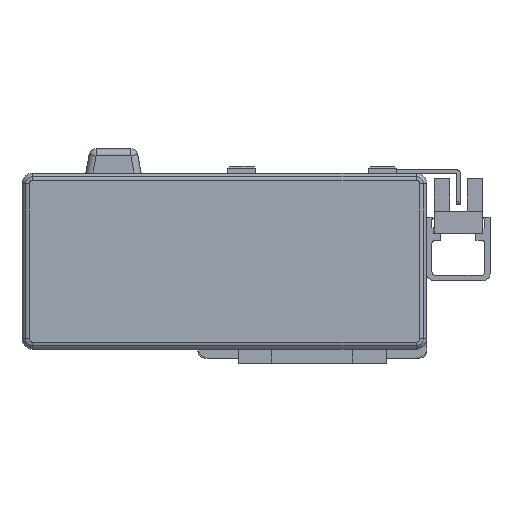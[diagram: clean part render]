
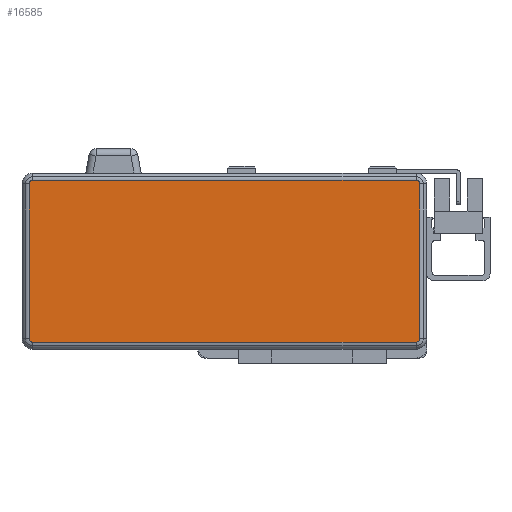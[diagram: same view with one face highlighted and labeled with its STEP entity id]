
A CAD part, left-side view. The second image highlights one B-rep face of the part: STEP entity #16585.
In plain terms, the highlighted planar face has unit normal (-1, 0, 0) as drawn and (0, 0, 1) by its records, which use the part's own axes.
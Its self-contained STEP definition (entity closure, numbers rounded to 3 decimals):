
#4 = CARTESIAN_POINT ( 'NONE',  ( -54.5, 23., 40. ) ) ;
#787 = CARTESIAN_POINT ( 'NONE',  ( -55.5, 22., 40. ) ) ;
#1592 = DIRECTION ( 'NONE',  ( -1., 0., 0. ) ) ;
#1779 = DIRECTION ( 'NONE',  ( 0., 0., 1. ) ) ;
#2350 = CARTESIAN_POINT ( 'NONE',  ( -54.5, -23., 40. ) ) ;
#3038 = EDGE_LOOP ( 'NONE', ( #16151, #17497, #17684, #18080, #18652, #18756, #19228, #19342 ) ) ;
#4002 = VERTEX_POINT ( 'NONE', #26569 ) ;
#5060 = VERTEX_POINT ( 'NONE', #16366 ) ;
#6019 = CARTESIAN_POINT ( 'NONE',  ( 55.5, 0., 40. ) ) ;
#7410 = CARTESIAN_POINT ( 'NONE',  ( 54.5, -22., 40. ) ) ;
#7452 = DIRECTION ( 'NONE',  ( 0., 0., 1. ) ) ;
#8051 = CARTESIAN_POINT ( 'NONE',  ( 0., -23., 40. ) ) ;
#8446 = VERTEX_POINT ( 'NONE', #2350 ) ;
#8719 = AXIS2_PLACEMENT_3D ( 'NONE', #23325, #23313, #23276 ) ;
#8763 = AXIS2_PLACEMENT_3D ( 'NONE', #25119, #25105, #25073 ) ;
#8792 = DIRECTION ( 'NONE',  ( -1., 0., 0. ) ) ;
#8829 = DIRECTION ( 'NONE',  ( 0., 0., -1. ) ) ;
#8860 = AXIS2_PLACEMENT_3D ( 'NONE', #19616, #1779, #1592 ) ;
#8933 = AXIS2_PLACEMENT_3D ( 'NONE', #7410, #7452, #16915 ) ;
#11970 = VERTEX_POINT ( 'NONE', #4 ) ;
#12459 = VERTEX_POINT ( 'NONE', #16577 ) ;
#13227 = CARTESIAN_POINT ( 'NONE',  ( 55.5, -22., 40. ) ) ;
#13738 = DIRECTION ( 'NONE',  ( 0., 1., 0. ) ) ;
#13868 = CARTESIAN_POINT ( 'NONE',  ( -55.5, -22., 40. ) ) ;
#15184 = FACE_OUTER_BOUND ( 'NONE', #3038, .T. ) ;
#16003 = CARTESIAN_POINT ( 'NONE',  ( 0., 0., 40. ) ) ;
#16047 = VERTEX_POINT ( 'NONE', #787 ) ;
#16151 = ORIENTED_EDGE ( 'NONE', *, *, #21588, .T. ) ;
#16234 = AXIS2_PLACEMENT_3D ( 'NONE', #16003, #8829, #8792 ) ;
#16366 = CARTESIAN_POINT ( 'NONE',  ( 54.5, -23., 40. ) ) ;
#16577 = CARTESIAN_POINT ( 'NONE',  ( 54.5, 23., 40. ) ) ;
#16585 = ADVANCED_FACE ( 'NONE', ( #15184 ), #16772, .F. ) ;
#16642 = DIRECTION ( 'NONE',  ( 1., 0., 0. ) ) ;
#16772 = PLANE ( 'NONE',  #16234 ) ;
#16915 = DIRECTION ( 'NONE',  ( -1., 0., 0. ) ) ;
#17497 = ORIENTED_EDGE ( 'NONE', *, *, #21589, .T. ) ;
#17684 = ORIENTED_EDGE ( 'NONE', *, *, #21620, .T. ) ;
#17922 = VERTEX_POINT ( 'NONE', #13227 ) ;
#18080 = ORIENTED_EDGE ( 'NONE', *, *, #21661, .T. ) ;
#18652 = ORIENTED_EDGE ( 'NONE', *, *, #21700, .T. ) ;
#18756 = ORIENTED_EDGE ( 'NONE', *, *, #21862, .T. ) ;
#19228 = ORIENTED_EDGE ( 'NONE', *, *, #21932, .T. ) ;
#19342 = ORIENTED_EDGE ( 'NONE', *, *, #21962, .T. ) ;
#19616 = CARTESIAN_POINT ( 'NONE',  ( 54.5, 22., 40. ) ) ;
#21588 = EDGE_CURVE ( 'NONE', #8446, #5060, #26339, .T. ) ;
#21589 = EDGE_CURVE ( 'NONE', #5060, #17922, #26278, .T. ) ;
#21620 = EDGE_CURVE ( 'NONE', #17922, #4002, #25970, .T. ) ;
#21661 = EDGE_CURVE ( 'NONE', #4002, #12459, #25612, .T. ) ;
#21700 = EDGE_CURVE ( 'NONE', #12459, #11970, #25151, .T. ) ;
#21862 = EDGE_CURVE ( 'NONE', #11970, #16047, #24278, .T. ) ;
#21932 = EDGE_CURVE ( 'NONE', #16047, #22373, #23621, .T. ) ;
#21962 = EDGE_CURVE ( 'NONE', #22373, #8446, #23543, .T. ) ;
#22373 = VERTEX_POINT ( 'NONE', #13868 ) ;
#23276 = DIRECTION ( 'NONE',  ( -1., 0., 0. ) ) ;
#23313 = DIRECTION ( 'NONE',  ( 0., 0., 1. ) ) ;
#23325 = CARTESIAN_POINT ( 'NONE',  ( -54.5, -22., 40. ) ) ;
#23543 = CIRCLE ( 'NONE', #8719, 1. ) ;
#23569 = VECTOR ( 'NONE', #24329, 1000. ) ;
#23621 = LINE ( 'NONE', #24442, #23569 ) ;
#23898 = DIRECTION ( 'NONE',  ( -1., 0., 0. ) ) ;
#24278 = CIRCLE ( 'NONE', #8763, 1. ) ;
#24329 = DIRECTION ( 'NONE',  ( 0., -1., 0. ) ) ;
#24442 = CARTESIAN_POINT ( 'NONE',  ( -55.5, 0., 40. ) ) ;
#24920 = VECTOR ( 'NONE', #23898, 1000. ) ;
#25073 = DIRECTION ( 'NONE',  ( -1., 0., 0. ) ) ;
#25105 = DIRECTION ( 'NONE',  ( 0., 0., 1. ) ) ;
#25119 = CARTESIAN_POINT ( 'NONE',  ( -54.5, 22., 40. ) ) ;
#25151 = LINE ( 'NONE', #27060, #24920 ) ;
#25612 = CIRCLE ( 'NONE', #8860, 1. ) ;
#25949 = VECTOR ( 'NONE', #13738, 1000. ) ;
#25970 = LINE ( 'NONE', #6019, #25949 ) ;
#26147 = VECTOR ( 'NONE', #16642, 1000. ) ;
#26278 = CIRCLE ( 'NONE', #8933, 1. ) ;
#26339 = LINE ( 'NONE', #8051, #26147 ) ;
#26569 = CARTESIAN_POINT ( 'NONE',  ( 55.5, 22., 40. ) ) ;
#27060 = CARTESIAN_POINT ( 'NONE',  ( 0., 23., 40. ) ) ;
